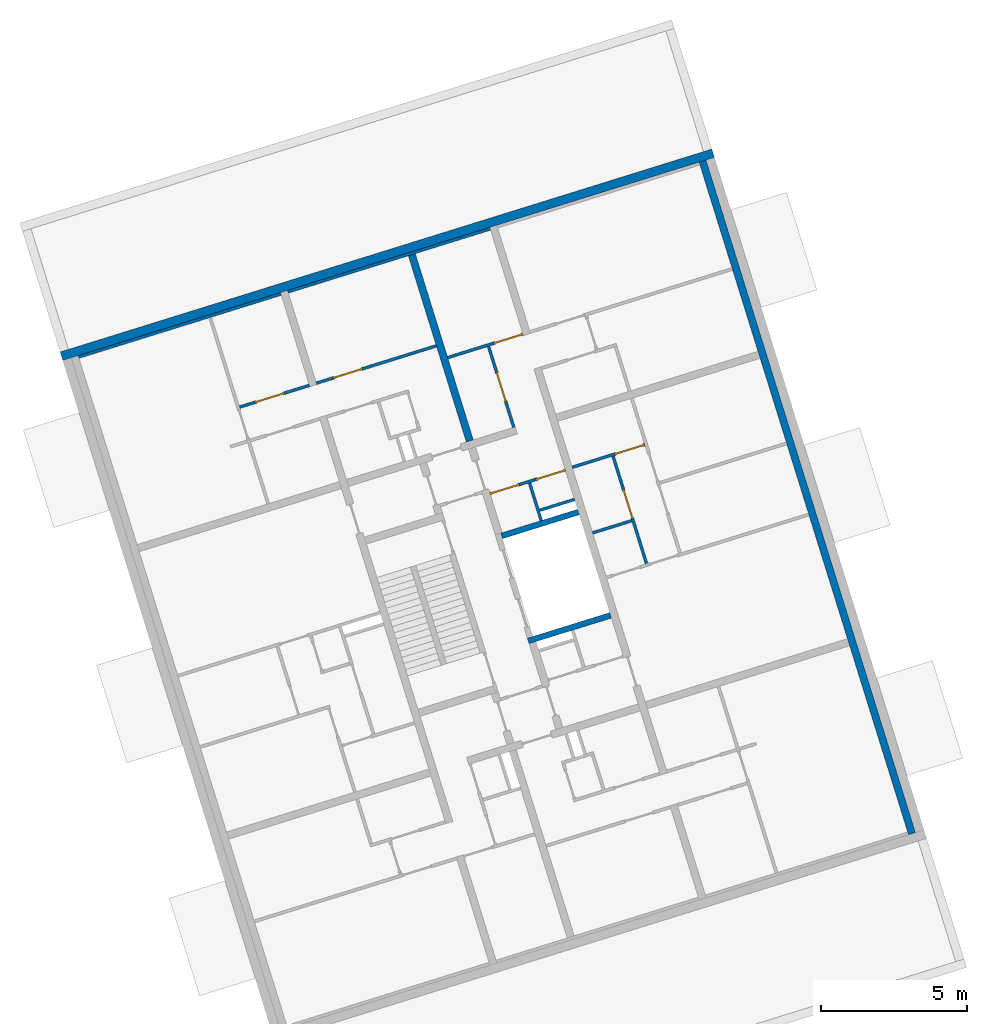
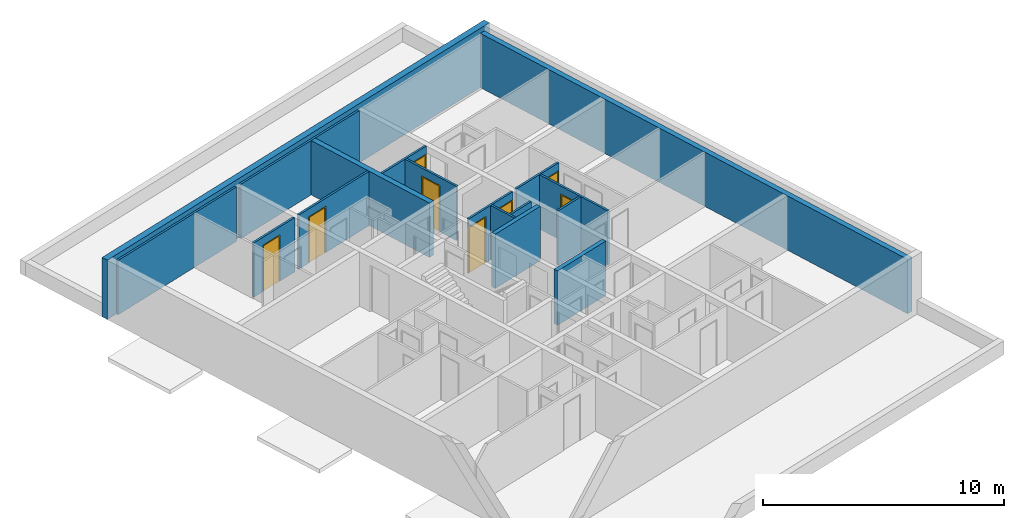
# One storey, part 6 of 9: 17 walls, 8 doors, 9 openings.
"""IFC4 building model written with IfcOpenShell, lengths in metres."""

from ifc_helpers import new_model, entity, si_unit, converted_unit, direction, frame, origin, place, context, subcontext, project, spatial, indexed_curve, outline, extrude, polygons, source, transform, mapped, material, constituent, constituent_set, type_object, type_shapes, element, fill, save


model = new_model("IFC4")

# Units and contexts
model_context = context("Model", 3, precision=1e-05, world=origin(), true_north=direction((6.12323399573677e-17, 1.0)))
body_context = subcontext(model_context, "Body", "Model", "MODEL_VIEW")
ifc_project = project(units=[si_unit("LENGTHUNIT", "METRE"), si_unit("AREAUNIT", "SQUARE_METRE"), converted_unit("PLANEANGLEUNIT", "DEGREE", entity("IfcPlaneAngleMeasure", 0.0174532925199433), si_unit("PLANEANGLEUNIT", "RADIAN"), dimensions=[0, 0, 0, 0, 0, 0, 0]), si_unit("VOLUMEUNIT", "CUBIC_METRE")], contexts=[model_context])

# Site, building, storey
site_placement = place(None, frame((13.1347999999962, 11.9886000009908, 0.0), z_axis=(0.0, 0.0, 1.0), x_axis=(0.954770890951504, 0.297342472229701, 0.0)))
site = spatial("IfcSite", under=ifc_project, at=site_placement, Name="Schiehaven", CompositionType="ELEMENT")
building_placement = place(site_placement, origin())
building = spatial("IfcBuilding", under=site, at=building_placement, Name="VORM huis", CompositionType="ELEMENT")
storey_placement = place(building_placement, frame((0.0, 0.0, 6.9)))
storey = spatial("IfcBuildingStorey", under=building, at=storey_placement, Name="02 tweede verdieping", CompositionType="ELEMENT", Elevation=6.9)

# Walls
ifc_material_1 = material(Name="beton_gewapend_ihw", Category="Miscellaneous")
wall_type_1 = type_object("IfcWallType", Name="Basic Wall:28_WA_skelet_wand 250mm_gen", PredefinedType="STANDARD")
wall_1_placement = place(storey_placement, frame((80.0, 5.0, 0.0), z_axis=(0.0, 0.0, 1.0), x_axis=(0.0, 1.0, 0.0)))
element("IfcWall", 1, at=wall_1_placement, inside=storey, type_object=wall_type_1, material=ifc_material_1, Name="Constructieve wand", ObjectType="Wand", PredefinedType="NOTDEFINED", context=body_context, shape_type="SweptSolid", body=[
    extrude(outline(indexed_curve([(24.1, 0.125), (2.12737606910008e-16, 0.125000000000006), (-2.12737606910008e-16, -0.125000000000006), (24.1, -0.125000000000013), (24.1, 0.125)], self_intersect=False)), origin(), (0.0, 0.0, 1.0), 2.75),
])
ifc_material_2 = material(Name="ntb_ntb_ntb", Category="Miscellaneous")
wall_type_2 = type_object("IfcWallType", Name="Basic Wall:21_WA_gevel_binnenspouwwand 100mm_gen", PredefinedType="STANDARD")
wall_2_placement = place(storey_placement, frame((65.1250000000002, 29.0499999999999, 0.0)))
element("IfcWall", 2, at=wall_2_placement, inside=storey, type_object=wall_type_2, material=ifc_material_2, Name="Binnenspouwblad", ObjectType="Wand", PredefinedType="NOTDEFINED", context=body_context, shape_type="SweptSolid", body=[
    extrude(outline(indexed_curve([(7.24999999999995, 0.0500000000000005), (-1.71284880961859e-16, 0.0500000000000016), (1.71284880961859e-16, -0.0500000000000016), (7.24999999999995, -0.0500000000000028), (7.24999999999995, 0.0500000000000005)], self_intersect=False)), origin(), (0.0, 0.0, 1.0), 2.75),
])
wall_3_placement = place(storey_placement, frame((64.8750000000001, 29.0499999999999, 0.0), z_axis=(0.0, 0.0, 1.0), x_axis=(-1.0, 0.0, 0.0)))
element("IfcWall", 3, at=wall_3_placement, inside=storey, type_object=wall_type_2, material=ifc_material_2, Name="Binnenspouwblad", ObjectType="Wand", PredefinedType="NOTDEFINED", context=body_context, shape_type="SweptSolid", body=[
    extrude(outline(indexed_curve([(7.24999999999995, 0.0499999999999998), (-1.70916305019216e-17, 0.0500000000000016), (1.70916305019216e-17, -0.0500000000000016), (7.24999999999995, -0.0500000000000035), (7.24999999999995, 0.0499999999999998)], self_intersect=False)), origin(), (0.0, 0.0, 1.0), 2.75),
])
wall_type_3 = type_object("IfcWallType", Name="Basic Wall: 300mm_gen", PredefinedType="STANDARD")
wall_4_placement = place(storey_placement, frame((80.4249999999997, 29.2499999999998, 0.0), z_axis=(0.0, 0.0, 1.0), x_axis=(-1.0, 0.0, 0.0)))
element("IfcWall", 4, at=wall_4_placement, inside=storey, type_object=wall_type_3, material=ifc_material_2, Name="Gevelwand", ObjectType="Wand", PredefinedType="NOTDEFINED", context=body_context, shape_type="SweptSolid", body=[
    extrude(outline(indexed_curve([(23.35, 0.15), (1.7850939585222e-15, 0.150000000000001), (-1.7850939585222e-15, -0.150000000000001), (23.35, -0.150000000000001), (23.35, 0.15)], self_intersect=False)), origin(), (0.0, 0.0, 1.0), 3.0),
])
ifc_material_3 = material(Name="beton_gewapend_prefab-element", Category="Miscellaneous")
wall_type_4 = type_object("IfcWallType", Name="Basic Wall:28_WA_skelet_wand 200mm_gen", PredefinedType="STANDARD")
wall_5_placement = place(storey_placement, frame((72.3750000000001, 15.1999999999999, 0.0), z_axis=(0.0, 0.0, 1.0), x_axis=(-1.0, 0.0, 0.0)))
element("IfcWall", 5, at=wall_5_placement, inside=storey, type_object=wall_type_4, material=ifc_material_3, Name="Constructieve wand", ObjectType="Wand", PredefinedType="NOTDEFINED", context=body_context, shape_type="SweptSolid", body=[
    extrude(outline(indexed_curve([(2.9500000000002, 0.100000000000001), (-7.3154940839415e-18, 0.100000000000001), (7.3154940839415e-18, -0.100000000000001), (2.9500000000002, -0.100000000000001), (2.9500000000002, 0.100000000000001)], self_intersect=False)), origin(), (0.0, 0.0, 1.0), 2.75),
])
wall_6_placement = place(storey_placement, frame((69.6249999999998, 18.8999999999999, 0.0)))
element("IfcWall", 6, at=wall_6_placement, inside=storey, type_object=wall_type_4, material=ifc_material_3, Name="Constructieve wand", ObjectType="Wand", PredefinedType="NOTDEFINED", context=body_context, shape_type="SweptSolid", body=[
    extrude(outline(indexed_curve([(2.75000000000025, 0.100000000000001), (-1.53322085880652e-16, 0.100000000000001), (1.53322085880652e-16, -0.100000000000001), (2.75000000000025, -0.100000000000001), (2.75000000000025, 0.100000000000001)], self_intersect=False)), origin(), (0.0, 0.0, 1.0), 2.75),
])
wall_type_5 = type_object("IfcWallType", Name="Basic Wall:22_WA_afbouw_binnenwand 250mm_gen", PredefinedType="STANDARD")
wall_7_placement = place(storey_placement, frame((69.5499999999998, 22.3249999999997, 0.0), z_axis=(0.0, 0.0, 1.0), x_axis=(0.0, 1.0, 0.0)))
element("IfcWall", 7, at=wall_7_placement, inside=storey, type_object=wall_type_5, material=ifc_material_2, Name="Binnenwand", ObjectType="Wand", PredefinedType="NOTDEFINED", context=body_context, shape_type="SweptSolid", body=[
    extrude(outline(indexed_curve([(6.67500000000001, 0.125000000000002), (1.8578365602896e-15, 0.124999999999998), (-1.8578365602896e-15, -0.124999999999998), (6.67500000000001, -0.124999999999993), (6.67500000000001, 0.125000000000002)], self_intersect=False)), origin(), (0.0, 0.0, 1.0), 2.75),
])

# Wall, opening, door
wall_type_6 = type_object("IfcWallType", Name="Basic Wall:22_WA_afbouw_binnenwand 100mm_gen", PredefinedType="STANDARD")
wall_8_placement = place(storey_placement, frame((65.1249999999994, 25.7750000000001, 0.0)))
wall_8 = element("IfcWall", 8, at=wall_8_placement, inside=storey, type_object=wall_type_6, material=ifc_material_2, Name="Binnenwand", ObjectType="Wand", PredefinedType="NOTDEFINED", context=body_context, shape_type="Tessellation", body=[
    polygons([(2.98139225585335e-15, -0.0499999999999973, 1.08286712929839e-15), (0.600000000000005, -0.049999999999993, 1.08286712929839e-15), (0.600000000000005, -0.049999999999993, 2.34999999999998), (1.65000000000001, -0.0499999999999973, 2.34999999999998), (1.65000000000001, -0.0499999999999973, 1.08286712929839e-15), (4.30000000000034, -0.0499999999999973, 1.08286712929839e-15), (4.30000000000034, -0.0499999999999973, 2.75), (2.98139225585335e-15, -0.0499999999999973, 2.75), (0.600000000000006, 0.050000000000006, 2.34999999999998), (0.600000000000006, 0.050000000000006, 1.08286712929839e-15), (4.07058711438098e-15, 0.0500000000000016, 1.08286712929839e-15), (4.07058711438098e-15, 0.0500000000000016, 2.75), (4.30000000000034, 0.0500000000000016, 2.75), (4.30000000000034, 0.0500000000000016, 1.08286712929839e-15), (1.65000000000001, 0.0500000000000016, 1.08286712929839e-15), (1.65000000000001, 0.0500000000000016, 2.34999999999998)], [[[1, 2, 3, 4, 5, 6, 7, 8]], [[9, 10, 11, 12, 13, 14, 15, 16]], [[11, 10, 2, 1]], [[7, 6, 14, 13]], [[8, 7, 13, 12]], [[1, 8, 12, 11]], [[5, 4, 16, 15]], [[3, 2, 10, 9]], [[4, 3, 9, 16]], [[15, 14, 6, 5]]], closed=True),
])
opening_1_placement = place(wall_8_placement, frame((1.65000000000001, 0.0500000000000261, 0.0)))
opening_1 = element("IfcOpeningElement", 9, at=opening_1_placement, cuts=wall_8, Name="Binnendeur", PredefinedType="OPENING", context=body_context, shape_type="SweptSolid", body=[
    extrude(outline(indexed_curve([(2.34999999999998, 3.02234910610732e-29), (2.34999999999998, 1.05), (0.0, 1.05), (0.0, 3.02234910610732e-29), (2.34999999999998, 3.02234910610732e-29)], self_intersect=False)), frame((0.0, 0.0, 0.0), z_axis=(0.0, -1.0, 0.0), x_axis=(0.0, 0.0, 1.0)), (0.0, 0.0, 1.0), 0.1),
])
ifc_material_4 = material(Name="PD_a_binnenwandopeningen", Category="Miscellaneous")
ifc_constituent_1 = constituent(ifc_material_4, Name="PD_a_binnenwandopeningen", Category="Miscellaneous")
ifc_material_5 = material(Name="metaal_aluminium_ntb", Category="Miscellaneous")
ifc_constituent_2 = constituent(ifc_material_5, Name="metaal_aluminium_ntb", Category="Miscellaneous")
ifc_constituent_set_1 = constituent_set(constituents=[ifc_constituent_1, ifc_constituent_2])
ifc_constituent_3 = constituent(ifc_material_4, Name="PD_a_binnenwandopeningen", Category="Miscellaneous")
ifc_constituent_4 = constituent(ifc_material_5, Name="Panel", Category="Miscellaneous")
ifc_constituent_set_2 = constituent_set(constituents=[ifc_constituent_3, ifc_constituent_4])
door_type_1 = type_object("IfcDoorType", Name="32_DO_binnendeur enkel:binnendeur", OperationType="REVOLVING", PredefinedType="DOOR", material=ifc_constituent_set_2)
shared_shape_1 = source(origin(), body_context, "Body", "SweptSolid", [
    extrude(outline(indexed_curve([(0.475, -1.16249999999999), (0.525, -1.16249999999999), (0.525, 1.18749999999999), (-0.525, 1.18749999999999), (-0.525, -1.16249999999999), (-0.475, -1.16249999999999), (-0.475, 1.13749999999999), (0.475, 1.13749999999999), (0.475, -1.16249999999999)], self_intersect=False)), frame((0.525000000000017, 0.100000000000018, 1.16249999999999), z_axis=(0.0, -1.0, 0.0), x_axis=(1.0, 0.0, 0.0)), (0.0, 0.0, 1.0), 0.1),
    extrude(outline(indexed_curve([(-0.475, -0.025), (0.475, -0.025), (0.475, 0.025), (-0.475, 0.025), (-0.475, -0.025)], self_intersect=False)), frame((0.525000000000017, 0.0499999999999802, 0.0)), (0.0, 0.0, 1.0), 2.29999999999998),
])
type_shapes(door_type_1, [shared_shape_1])
door_1_placement = place(opening_1_placement, frame((0.0, 0.0, 0.0), z_axis=(0.0, 0.0, 1.0), x_axis=(-1.0, 0.0, 0.0)))
door_1 = element("IfcDoor", 10, at=door_1_placement, inside=storey, type_object=door_type_1, material=ifc_constituent_set_1, Name="Binnendeur", ObjectType="Deur", OperationType="REVOLVING", OverallHeight=2.34999999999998, OverallWidth=1.05, PredefinedType="DOOR", context=body_context, shape_type="MappedRepresentation", body=[
    mapped(shared_shape_1, transform((0.0, 0.0, 0.0), scale=1.0)),
])
fill(opening_1, door_1)

wall_9_placement = place(storey_placement, frame((64.8749999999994, 25.7750000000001, 0.0), z_axis=(0.0, 0.0, 1.0), x_axis=(-1.0, 0.0, 0.0)))
wall_9 = element("IfcWall", 11, at=wall_9_placement, inside=storey, type_object=wall_type_6, material=ifc_material_2, Name="Binnenwand", ObjectType="Wand", PredefinedType="NOTDEFINED", context=body_context, shape_type="Tessellation", body=[
    polygons([(-6.39486579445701e-16, -0.0499999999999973, 1.08286712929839e-15), (0.899999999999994, -0.0499999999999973, 1.08286712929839e-15), (0.899999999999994, -0.0499999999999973, 2.34999999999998), (1.95, -0.049999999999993, 2.34999999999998), (1.95, -0.049999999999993, 1.08286712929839e-15), (2.5, -0.049999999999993, 1.08286712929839e-15), (2.5, -0.049999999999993, 2.75), (-6.39486579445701e-16, -0.0499999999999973, 2.75), (0.899999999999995, 0.0500000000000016, 2.34999999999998), (0.899999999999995, 0.0500000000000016, 1.08286712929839e-15), (8.7250433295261e-16, 0.0500000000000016, 1.08286712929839e-15), (8.7250433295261e-16, 0.0500000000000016, 2.75), (2.5, 0.050000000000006, 2.75), (2.5, 0.050000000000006, 1.08286712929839e-15), (1.95, 0.050000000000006, 1.08286712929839e-15), (1.95, 0.050000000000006, 2.34999999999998)], [[[1, 2, 3, 4, 5, 6, 7, 8]], [[9, 10, 11, 12, 13, 14, 15, 16]], [[11, 10, 2, 1]], [[8, 7, 13, 12]], [[1, 8, 12, 11]], [[5, 4, 16, 15]], [[3, 2, 10, 9]], [[4, 3, 9, 16]], [[7, 6, 14, 13]], [[15, 14, 6, 5]]], closed=True),
])
opening_2_placement = place(wall_9_placement, frame((0.899999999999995, -0.049999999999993, 0.0)))
opening_2 = element("IfcOpeningElement", 12, at=opening_2_placement, cuts=wall_9, Name="Binnendeur", PredefinedType="OPENING", context=body_context, shape_type="SweptSolid", body=[
    extrude(outline(indexed_curve([(2.34999999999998, 1.05), (0.0, 1.05), (0.0, 0.0), (2.34999999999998, 0.0), (2.34999999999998, 1.05)], self_intersect=False)), frame((0.0, 0.0, 0.0), z_axis=(0.0, 1.0, 0.0), x_axis=(0.0, 0.0, 1.0)), (0.0, 0.0, 1.0), 0.1),
])
ifc_constituent_5 = constituent(ifc_material_4, Name="PD_a_binnenwandopeningen", Category="Miscellaneous")
ifc_constituent_6 = constituent(ifc_material_5, Name="metaal_aluminium_ntb", Category="Miscellaneous")
ifc_constituent_set_3 = constituent_set(constituents=[ifc_constituent_5, ifc_constituent_6])
ifc_constituent_7 = constituent(ifc_material_4, Name="PD_a_binnenwandopeningen", Category="Miscellaneous")
ifc_constituent_8 = constituent(ifc_material_5, Name="Panel", Category="Miscellaneous")
ifc_constituent_set_4 = constituent_set(constituents=[ifc_constituent_7, ifc_constituent_8])
door_type_2 = type_object("IfcDoorType", Name="32_DO_binnendeur enkel:binnendeur", OperationType="REVOLVING", PredefinedType="DOOR", material=ifc_constituent_set_4)
shared_shape_2 = source(origin(), body_context, "Body", "SweptSolid", [
    extrude(outline(indexed_curve([(-1.16249999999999, -0.525000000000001), (1.18749999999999, -0.525), (1.18749999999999, 0.525), (-1.16249999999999, 0.525), (-1.16249999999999, 0.475), (1.13749999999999, 0.475), (1.13749999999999, -0.475), (-1.16249999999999, -0.475), (-1.16249999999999, -0.525000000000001)], self_intersect=False)), frame((0.525000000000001, 0.0, 1.16249999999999), z_axis=(0.0, 1.0, 0.0), x_axis=(0.0, 0.0, 1.0)), (0.0, 0.0, 1.0), 0.1),
    extrude(outline(indexed_curve([(-0.025, -0.475), (0.025, -0.475), (0.025, 0.475), (-0.025, 0.475), (-0.025, -0.475)], self_intersect=False)), frame((0.525000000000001, 0.0499999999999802, 0.0), z_axis=(0.0, 0.0, 1.0), x_axis=(0.0, 1.0, 0.0)), (0.0, 0.0, 1.0), 2.29999999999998),
])
type_shapes(door_type_2, [shared_shape_2])
door_2_placement = place(opening_2_placement, origin())
door_2 = element("IfcDoor", 13, at=door_2_placement, inside=storey, type_object=door_type_2, material=ifc_constituent_set_3, Name="Binnendeur", ObjectType="Deur", OperationType="REVOLVING", OverallHeight=2.34999999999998, OverallWidth=1.05, PredefinedType="DOOR", context=body_context, shape_type="MappedRepresentation", body=[
    mapped(shared_shape_2, transform((0.0, 0.0, 0.0), scale=1.0)),
])
fill(opening_2, door_2)

wall_10_placement = place(storey_placement, frame((69.6749999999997, 25.2750000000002, 0.0)))
wall_10 = element("IfcWall", 14, at=wall_10_placement, inside=storey, type_object=wall_type_6, material=ifc_material_2, Name="Binnenwand", ObjectType="Wand", PredefinedType="NOTDEFINED", context=body_context, shape_type="Tessellation", body=[
    polygons([(2.69999999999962, -0.0499999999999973, 2.75), (1.49999999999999, -0.0499999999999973, 2.75), (1.39999999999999, -0.0499999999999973, 2.75), (-3.65176134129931e-15, -0.0499999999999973, 2.75), (-3.65176134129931e-15, -0.0499999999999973, 1.08286712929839e-15), (1.39999999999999, -0.0499999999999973, 0.0), (1.49999999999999, -0.0499999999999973, 0.0), (1.64999999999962, -0.0499999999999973, 1.08286712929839e-15), (1.64999999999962, -0.0499999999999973, 2.34999999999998), (2.69999999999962, -0.0499999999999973, 2.34999999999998), (-3.70058076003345e-15, 0.0500000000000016, 2.75), (2.69999999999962, 0.0500000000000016, 2.75), (2.69999999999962, 0.0500000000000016, 2.34999999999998), (1.64999999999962, 0.0500000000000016, 2.34999999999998), (1.64999999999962, 0.0500000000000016, 1.08286712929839e-15), (-3.70058076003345e-15, 0.0500000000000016, 1.08286712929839e-15)], [[[1, 2, 3, 4, 5, 6, 7, 8, 9, 10]], [[11, 12, 13, 14, 15, 16]], [[5, 16, 15, 8, 7, 6]], [[12, 1, 10, 13]], [[4, 3, 2, 1, 12, 11]], [[5, 4, 11, 16]], [[14, 9, 8, 15]], [[9, 14, 13, 10]]], closed=True),
])
opening_3_placement = place(wall_10_placement, frame((2.69999999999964, 0.0500000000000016, 0.0)))
opening_3 = element("IfcOpeningElement", 15, at=opening_3_placement, cuts=wall_10, Name="Binnendeur", PredefinedType="OPENING", context=body_context, shape_type="SweptSolid", body=[
    extrude(outline(indexed_curve([(2.34999999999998, 0.0), (2.34999999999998, 1.05), (0.0, 1.05), (0.0, 0.0), (2.34999999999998, 0.0)], self_intersect=False)), frame((0.0, 0.0, 0.0), z_axis=(0.0, -1.0, 0.0), x_axis=(0.0, 0.0, 1.0)), (0.0, 0.0, 1.0), 0.1),
])
ifc_constituent_9 = constituent(ifc_material_4, Name="PD_a_binnenwandopeningen", Category="Miscellaneous")
ifc_constituent_10 = constituent(ifc_material_5, Name="metaal_aluminium_ntb", Category="Miscellaneous")
ifc_constituent_set_5 = constituent_set(constituents=[ifc_constituent_9, ifc_constituent_10])
door_3_placement = place(opening_3_placement, frame((0.0, 0.0, 0.0), z_axis=(0.0, 0.0, 1.0), x_axis=(-1.0, 0.0, 0.0)))
door_3 = element("IfcDoor", 16, at=door_3_placement, inside=storey, type_object=door_type_1, material=ifc_constituent_set_5, Name="Binnendeur", ObjectType="Deur", OperationType="REVOLVING", OverallHeight=2.34999999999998, OverallWidth=1.05, PredefinedType="DOOR", context=body_context, shape_type="MappedRepresentation", body=[
    mapped(shared_shape_1, transform((0.0, 0.0, 0.0), scale=1.0)),
])
fill(opening_3, door_3)

# Wall
wall_11_placement = place(storey_placement, frame((71.0749999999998, 19.0, 0.0), z_axis=(0.0, 0.0, 1.0), x_axis=(0.0, 1.0, 0.0)))
element("IfcWall", 17, at=wall_11_placement, inside=storey, type_object=wall_type_6, material=ifc_material_2, Name="Binnenwand", ObjectType="Wand", PredefinedType="NOTDEFINED", context=body_context, shape_type="SweptSolid", body=[
    extrude(outline(indexed_curve([(1.34999999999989, 0.0500000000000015), (-1.56634385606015e-16, 0.0499999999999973), (1.56634385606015e-16, -0.0499999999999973), (1.34999999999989, -0.0499999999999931), (1.34999999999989, 0.0500000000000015)], self_intersect=False)), origin(), (0.0, 0.0, 1.0), 2.75),
])

# Wall, openings, doors
wall_12_placement = place(storey_placement, frame((72.3749999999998, 20.3999999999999, 0.0), z_axis=(0.0, 0.0, 1.0), x_axis=(-1.0, 0.0, 0.0)))
wall_12 = element("IfcWall", 18, at=wall_12_placement, inside=storey, type_object=wall_type_6, material=ifc_material_2, Name="Binnenwand", ObjectType="Wand", PredefinedType="NOTDEFINED", context=body_context, shape_type="Tessellation", body=[
    polygons([(2.70000000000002, -0.0499999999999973, 2.75), (-3.12110804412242e-15, -0.0499999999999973, 2.75), (-3.12110804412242e-15, -0.0499999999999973, 2.34999999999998), (1.04999999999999, -0.0499999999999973, 2.34999999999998), (1.04999999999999, -0.0499999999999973, 1.08286712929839e-15), (1.65, -0.0499999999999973, 1.08286712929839e-15), (1.65000000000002, -0.0499999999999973, 2.34999999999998), (2.70000000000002, -0.0499999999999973, 2.34999999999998), (-2.30097644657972e-15, 0.0500000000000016, 2.75), (1.25, 0.0500000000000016, 2.75), (1.35, 0.0500000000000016, 2.75), (2.70000000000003, 0.0500000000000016, 2.75), (2.70000000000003, 0.0500000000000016, 2.34999999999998), (1.65, 0.0500000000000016, 2.34999999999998), (1.65, 0.0500000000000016, 1.08286712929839e-15), (1.35, 0.0500000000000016, 0.0), (1.25, 0.0500000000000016, 0.0), (1.04999999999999, 0.0500000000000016, 1.08286712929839e-15), (1.04999999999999, 0.0500000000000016, 2.34999999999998), (-2.30097644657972e-15, 0.0500000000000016, 2.34999999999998)], [[[1, 2, 3, 4, 5, 6, 7, 8]], [[9, 10, 11, 12, 13, 14, 15, 16, 17, 18, 19, 20]], [[15, 6, 5, 18, 17, 16]], [[12, 1, 8, 13]], [[2, 1, 12, 11, 10, 9]], [[2, 9, 20, 3]], [[4, 19, 18, 5]], [[19, 4, 3, 20]], [[14, 7, 6, 15]], [[7, 14, 13, 8]]], closed=True),
])
opening_4_placement = place(wall_12_placement, frame((1.05, 0.050000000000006, 0.0)))
opening_4 = element("IfcOpeningElement", 19, at=opening_4_placement, cuts=wall_12, Name="Binnendeur", PredefinedType="OPENING", context=body_context, shape_type="SweptSolid", body=[
    extrude(outline(indexed_curve([(2.34999999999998, 0.0), (2.34999999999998, 1.05), (0.0, 1.05), (0.0, 0.0), (2.34999999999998, 0.0)], self_intersect=False)), frame((0.0, 0.0, 0.0), z_axis=(0.0, -1.0, 0.0), x_axis=(0.0, 0.0, 1.0)), (0.0, 0.0, 1.0), 0.1),
])
opening_5_placement = place(wall_12_placement, frame((72.3749999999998, 20.3999999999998, 0.0), z_axis=(0.0, 0.0, 1.0), x_axis=(-1.0, 0.0, 0.0)))
element("IfcOpeningElement", 20, at=opening_5_placement, cuts=wall_12, Name="Binnendeur", PredefinedType="OPENING", context=body_context, shape_type="SweptSolid", body=[
    extrude(outline(indexed_curve([(-1.17499999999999, -0.525000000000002), (1.17499999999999, -0.525000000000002), (1.17499999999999, 0.525000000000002), (-1.17499999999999, 0.525000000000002), (-1.17499999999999, -0.525000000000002)], self_intersect=False)), frame((71.8499999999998, 21.8739999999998, 1.17499999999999), z_axis=(0.0, -1.0, 0.0), x_axis=(0.0, 0.0, -1.0)), (0.0, 0.0, 1.0), 3.048),
])
opening_6_placement = place(wall_12_placement, frame((2.70000000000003, 0.050000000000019, 0.0)))
opening_6 = element("IfcOpeningElement", 21, at=opening_6_placement, cuts=wall_12, Name="Binnendeur", PredefinedType="OPENING", context=body_context, shape_type="SweptSolid", body=[
    extrude(outline(indexed_curve([(2.34999999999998, 0.0), (2.34999999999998, 1.05), (0.0, 1.05), (0.0, 0.0), (2.34999999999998, 0.0)], self_intersect=False)), frame((0.0, 0.0, 0.0), z_axis=(0.0, -1.0, 0.0), x_axis=(0.0, 0.0, 1.0)), (0.0, 0.0, 1.0), 0.1),
])
ifc_constituent_11 = constituent(ifc_material_4, Name="PD_a_binnenwandopeningen", Category="Miscellaneous")
ifc_constituent_12 = constituent(ifc_material_5, Name="metaal_aluminium_ntb", Category="Miscellaneous")
ifc_constituent_set_6 = constituent_set(constituents=[ifc_constituent_11, ifc_constituent_12])
door_4_placement = place(opening_4_placement, frame((0.0, 0.0, 0.0), z_axis=(0.0, 0.0, 1.0), x_axis=(-1.0, 0.0, 0.0)))
door_4 = element("IfcDoor", 22, at=door_4_placement, inside=storey, type_object=door_type_1, material=ifc_constituent_set_6, Name="Binnendeur", ObjectType="Deur", OperationType="REVOLVING", OverallHeight=2.34999999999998, OverallWidth=1.05, PredefinedType="DOOR", context=body_context, shape_type="MappedRepresentation", body=[
    mapped(shared_shape_1, transform((0.0, 0.0, 0.0), scale=1.0)),
])
fill(opening_4, door_4)
ifc_constituent_13 = constituent(ifc_material_4, Name="PD_a_binnenwandopeningen", Category="Miscellaneous")
ifc_constituent_14 = constituent(ifc_material_5, Name="metaal_aluminium_ntb", Category="Miscellaneous")
ifc_constituent_set_7 = constituent_set(constituents=[ifc_constituent_13, ifc_constituent_14])
door_5_placement = place(opening_6_placement, frame((0.0, 0.0, 0.0), z_axis=(0.0, 0.0, 1.0), x_axis=(-1.0, 0.0, 0.0)))
door_5 = element("IfcDoor", 23, at=door_5_placement, inside=storey, type_object=door_type_1, material=ifc_constituent_set_7, Name="Binnendeur", ObjectType="Deur", OperationType="REVOLVING", OverallHeight=2.34999999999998, OverallWidth=1.05, PredefinedType="DOOR", context=body_context, shape_type="MappedRepresentation", body=[
    mapped(shared_shape_1, transform((0.0, 0.0, 0.0), scale=1.0)),
])
fill(opening_6, door_5)

# Wall
wall_13_placement = place(storey_placement, frame((72.3749999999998, 19.3499999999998, 0.0), z_axis=(0.0, 0.0, 1.0), x_axis=(-1.0, 0.0, 0.0)))
element("IfcWall", 24, at=wall_13_placement, inside=storey, type_object=wall_type_6, material=ifc_material_2, Name="Binnenwand", ObjectType="Wand", PredefinedType="NOTDEFINED", context=body_context, shape_type="SweptSolid", body=[
    extrude(outline(indexed_curve([(1.24999999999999, 0.050000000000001), (-1.10091953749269e-15, 0.0499999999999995), (1.10091953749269e-15, -0.0499999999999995), (1.24999999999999, -0.0499999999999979), (1.24999999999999, 0.050000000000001)], self_intersect=False)), origin(), (0.0, 0.0, 1.0), 2.75),
])

# Wall, opening, door
wall_14_placement = place(storey_placement, frame((71.1249999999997, 22.3249999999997, 0.0), z_axis=(0.0, 0.0, 1.0), x_axis=(0.0, 1.0, 0.0)))
wall_14 = element("IfcWall", 25, at=wall_14_placement, inside=storey, type_object=wall_type_6, material=ifc_material_2, Name="Binnenwand", ObjectType="Wand", PredefinedType="NOTDEFINED", context=body_context, shape_type="Tessellation", body=[
    polygons([(0.0, -0.0499999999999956, 1.08286712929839e-15), (0.925000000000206, -0.0500000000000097, 1.08286712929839e-15), (0.925000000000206, -0.0500000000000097, 2.34999999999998), (1.97500000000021, -0.0500000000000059, 2.34999999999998), (1.97500000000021, -0.0500000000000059, 1.08286712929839e-15), (2.90000000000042, -0.0500000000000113, 1.08286712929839e-15), (2.90000000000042, -0.0500000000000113, 2.75), (0.0, -0.0499999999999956, 2.75), (0.925000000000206, 0.0499999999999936, 2.34999999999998), (0.925000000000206, 0.0499999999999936, 1.08286712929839e-15), (0.0, 0.049999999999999, 1.08286712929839e-15), (0.0, 0.049999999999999, 2.75), (2.90000000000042, 0.049999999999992, 2.75), (2.90000000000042, 0.049999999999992, 1.08286712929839e-15), (1.97500000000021, 0.0499999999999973, 1.08286712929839e-15), (1.97500000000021, 0.0499999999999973, 2.34999999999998)], [[[1, 2, 3, 4, 5, 6, 7, 8]], [[9, 10, 11, 12, 13, 14, 15, 16]], [[11, 10, 2, 1]], [[8, 7, 13, 12]], [[1, 8, 12, 11]], [[5, 4, 16, 15]], [[3, 2, 10, 9]], [[4, 3, 9, 16]], [[7, 6, 14, 13]], [[15, 14, 6, 5]]], closed=True),
])
opening_7_placement = place(wall_14_placement, frame((1.97500000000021, 0.04999999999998, 0.0)))
opening_7 = element("IfcOpeningElement", 26, at=opening_7_placement, cuts=wall_14, Name="Binnendeur", PredefinedType="OPENING", context=body_context, shape_type="SweptSolid", body=[
    extrude(outline(indexed_curve([(2.34999999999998, 0.0), (2.34999999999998, 1.05), (0.0, 1.05), (0.0, 0.0), (2.34999999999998, 0.0)], self_intersect=False)), frame((0.0, 0.0, 0.0), z_axis=(0.0, -1.0, 0.0), x_axis=(0.0, 0.0, 1.0)), (0.0, 0.0, 1.0), 0.1),
])
ifc_constituent_15 = constituent(ifc_material_4, Name="PD_a_binnenwandopeningen", Category="Miscellaneous")
ifc_constituent_16 = constituent(ifc_material_5, Name="metaal_aluminium_ntb", Category="Miscellaneous")
ifc_constituent_set_8 = constituent_set(constituents=[ifc_constituent_15, ifc_constituent_16])
door_6_placement = place(opening_7_placement, frame((0.0, 0.0, 0.0), z_axis=(0.0, 0.0, 1.0), x_axis=(-1.0, 0.0, 0.0)))
door_6 = element("IfcDoor", 27, at=door_6_placement, inside=storey, type_object=door_type_1, material=ifc_constituent_set_8, Name="Binnendeur", ObjectType="Deur", OperationType="REVOLVING", OverallHeight=2.34999999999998, OverallWidth=1.05, PredefinedType="DOOR", context=body_context, shape_type="MappedRepresentation", body=[
    mapped(shared_shape_1, transform((0.0, 0.0, 0.0), scale=1.0)),
])
fill(opening_7, door_6)

wall_15_placement = place(storey_placement, frame((75.2249999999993, 20.4249999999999, 0.0), z_axis=(0.0, 0.0, 1.0), x_axis=(-1.0, 0.0, 0.0)))
wall_15 = element("IfcWall", 28, at=wall_15_placement, inside=storey, type_object=wall_type_6, material=ifc_material_2, Name="Binnenwand", ObjectType="Wand", PredefinedType="NOTDEFINED", context=body_context, shape_type="Tessellation", body=[
    polygons([(1.07500000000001, -0.0499999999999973, 2.34999999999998), (1.07500000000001, -0.0499999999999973, 1.08286712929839e-15), (2.59999999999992, -0.0499999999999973, 1.08286712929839e-15), (2.59999999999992, -0.0499999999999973, 2.75), (2.80355611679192e-15, -0.0499999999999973, 2.75), (2.80355611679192e-15, -0.0499999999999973, 1.08286712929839e-15), (0.0250000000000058, -0.0499999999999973, 1.08286712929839e-15), (0.0250000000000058, -0.0499999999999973, 2.34999999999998), (2.59999999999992, 0.0500000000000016, 1.08286712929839e-15), (1.20000000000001, 0.0500000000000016, 0.0), (1.1, 0.0500000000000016, 0.0), (1.07500000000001, 0.0500000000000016, 1.08286712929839e-15), (1.07500000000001, 0.0500000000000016, 2.34999999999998), (0.0250000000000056, 0.0500000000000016, 2.34999999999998), (0.0250000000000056, 0.0500000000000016, 1.08286712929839e-15), (2.57831440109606e-15, 0.0500000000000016, 1.08286712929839e-15), (2.57831440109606e-15, 0.0500000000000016, 2.75), (1.1, 0.0500000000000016, 2.75), (1.20000000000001, 0.0500000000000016, 2.75), (2.59999999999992, 0.0500000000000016, 2.75)], [[[1, 2, 3, 4, 5, 6, 7, 8]], [[9, 10, 11, 12, 13, 14, 15, 16, 17, 18, 19, 20]], [[7, 6, 16, 15]], [[4, 3, 9, 20]], [[5, 4, 20, 19, 18, 17]], [[6, 5, 17, 16]], [[15, 14, 8, 7]], [[13, 12, 2, 1]], [[14, 13, 1, 8]], [[3, 2, 12, 11, 10, 9]]], closed=True),
])
opening_8_placement = place(wall_15_placement, frame((0.025000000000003, -0.0500000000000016, 0.0)))
opening_8 = element("IfcOpeningElement", 29, at=opening_8_placement, cuts=wall_15, Name="Binnendeur", PredefinedType="OPENING", context=body_context, shape_type="SweptSolid", body=[
    extrude(outline(indexed_curve([(2.34999999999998, -1.90552226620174e-32), (2.34999999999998, 1.05), (0.0, 1.05), (0.0, -1.90552226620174e-32), (2.34999999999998, -1.90552226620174e-32)], self_intersect=False)), frame((0.0, 0.0, 0.0), z_axis=(0.0, 1.0, 0.0), x_axis=(0.0, 0.0, 1.0)), (0.0, 0.0, 1.0), 0.1),
])
ifc_constituent_17 = constituent(ifc_material_4, Name="PD_a_binnenwandopeningen", Category="Miscellaneous")
ifc_constituent_18 = constituent(ifc_material_5, Name="metaal_aluminium_ntb", Category="Miscellaneous")
ifc_constituent_set_9 = constituent_set(constituents=[ifc_constituent_17, ifc_constituent_18])
door_7_placement = place(opening_8_placement, origin())
door_7 = element("IfcDoor", 30, at=door_7_placement, inside=storey, type_object=door_type_1, material=ifc_constituent_set_9, Name="Binnendeur", ObjectType="Deur", OperationType="REVOLVING", OverallHeight=2.34999999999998, OverallWidth=1.05, PredefinedType="DOOR", context=body_context, shape_type="MappedRepresentation", body=[
    mapped(shared_shape_1, transform((0.0, 0.0, 0.0), scale=1.0)),
])
fill(opening_8, door_7)

wall_16_placement = place(storey_placement, frame((74.0749999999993, 20.375, 0.0), z_axis=(0.0, 0.0, 1.0), x_axis=(0.0, -1.0, 0.0)))
wall_16 = element("IfcWall", 31, at=wall_16_placement, inside=storey, type_object=wall_type_6, material=ifc_material_2, Name="Binnenwand", ObjectType="Wand", PredefinedType="NOTDEFINED", context=body_context, shape_type="Tessellation", body=[
    polygons([(2.25000000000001, -0.0500000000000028, 2.34999999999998), (2.25000000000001, -0.0500000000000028, 1.08286712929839e-15), (2.35000000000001, -0.0500000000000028, 0.0), (3.85000000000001, -0.0500000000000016, 1.08286712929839e-15), (3.85000000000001, -0.0500000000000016, 2.75), (2.35000000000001, -0.0500000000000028, 2.75), (2.25000000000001, -0.0500000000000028, 2.75), (0.0, -0.0500000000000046, 2.75), (0.0, -0.0500000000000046, 1.08286712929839e-15), (1.20000000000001, -0.0500000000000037, 1.08286712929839e-15), (1.20000000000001, -0.0500000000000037, 2.34999999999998), (3.85000000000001, 0.0500000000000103, 1.08286712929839e-15), (2.25000000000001, 0.0500000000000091, 1.08286712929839e-15), (2.25000000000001, 0.0500000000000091, 2.34999999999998), (1.20000000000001, 0.0500000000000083, 2.34999999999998), (1.20000000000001, 0.0500000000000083, 1.08286712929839e-15), (0.0, 0.0500000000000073, 1.08286712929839e-15), (4.33146851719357e-15, 0.0500000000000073, 2.75), (3.85000000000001, 0.0500000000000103, 2.75)], [[[1, 2, 3, 4, 5, 6, 7, 8, 9, 10, 11]], [[12, 13, 14, 15, 16, 17, 18, 19]], [[10, 9, 17, 16]], [[8, 7, 6, 5, 19, 18]], [[9, 8, 18, 17]], [[5, 4, 12, 19]], [[16, 15, 11, 10]], [[14, 13, 2, 1]], [[15, 14, 1, 11]], [[4, 3, 2, 13, 12]]], closed=True),
])
opening_9_placement = place(wall_16_placement, frame((1.20000000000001, -0.0499999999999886, 0.0)))
opening_9 = element("IfcOpeningElement", 32, at=opening_9_placement, cuts=wall_16, Name="Binnendeur", PredefinedType="OPENING", context=body_context, shape_type="SweptSolid", body=[
    extrude(outline(indexed_curve([(2.34999999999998, 1.35358391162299e-15), (2.34999999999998, 1.05), (0.0, 1.05), (0.0, 1.35358391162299e-15), (2.34999999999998, 1.35358391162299e-15)], self_intersect=False)), frame((0.0, 0.0, 0.0), z_axis=(0.0, 1.0, 0.0), x_axis=(0.0, 0.0, 1.0)), (0.0, 0.0, 1.0), 0.1),
])
ifc_constituent_19 = constituent(ifc_material_4, Name="PD_a_binnenwandopeningen", Category="Miscellaneous")
ifc_constituent_20 = constituent(ifc_material_5, Name="metaal_aluminium_ntb", Category="Miscellaneous")
ifc_constituent_set_10 = constituent_set(constituents=[ifc_constituent_19, ifc_constituent_20])
door_8_placement = place(opening_9_placement, origin())
door_8 = element("IfcDoor", 33, at=door_8_placement, inside=storey, type_object=door_type_1, material=ifc_constituent_set_10, Name="Binnendeur", ObjectType="Deur", OperationType="REVOLVING", OverallHeight=2.34999999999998, OverallWidth=1.05, PredefinedType="DOOR", context=body_context, shape_type="MappedRepresentation", body=[
    mapped(shared_shape_1, transform((0.0, 0.0, 0.0), scale=1.0)),
])
fill(opening_9, door_8)

# Wall
wall_17_placement = place(storey_placement, frame((72.6228357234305, 18.0749999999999, 0.0)))
element("IfcWall", 34, at=wall_17_placement, inside=storey, type_object=wall_type_6, material=ifc_material_2, Name="Binnenwand", ObjectType="Wand", PredefinedType="NOTDEFINED", context=body_context, shape_type="SweptSolid", body=[
    extrude(outline(indexed_curve([(1.40216427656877, 0.0499999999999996), (1.4909356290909e-16, 0.0499999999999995), (-1.4909356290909e-16, -0.0499999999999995), (1.40216427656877, -0.0499999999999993), (1.40216427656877, 0.0499999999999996)], self_intersect=False)), origin(), (0.0, 0.0, 1.0), 2.75),
])

save(model, "model.ifc")
